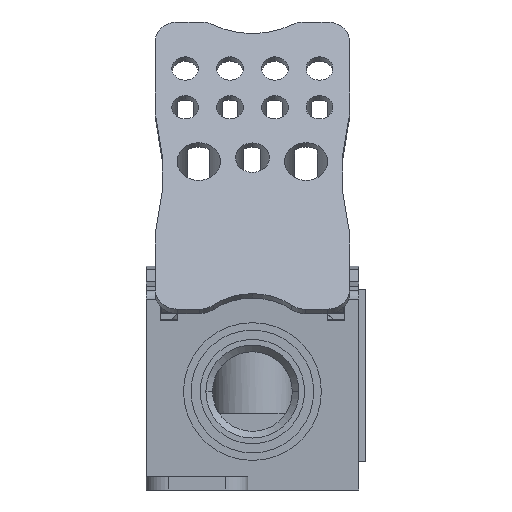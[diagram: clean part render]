
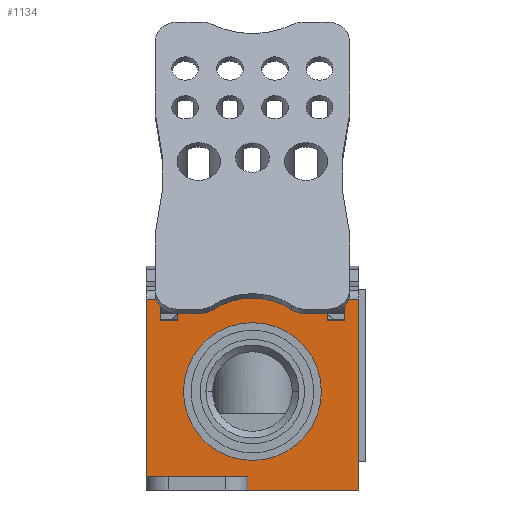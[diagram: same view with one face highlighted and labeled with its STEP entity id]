
A CAD part, left-side view. The second image highlights one B-rep face of the part: STEP entity #1134.
In plain terms, the highlighted planar face has unit normal (-1, 0, 0).
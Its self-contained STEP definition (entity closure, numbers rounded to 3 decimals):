
#381 = EDGE_LOOP ( 'NONE', ( #759, #760 ) ) ;
#430 = EDGE_LOOP ( 'NONE', ( #745, #746, #747, #748, #749, #750, #751, #752, #753, #754, #755, #756, #757, #758 ) ) ;
#745 = ORIENTED_EDGE ( 'NONE', *, *, #1950, .F. ) ;
#746 = ORIENTED_EDGE ( 'NONE', *, *, #1949, .T. ) ;
#747 = ORIENTED_EDGE ( 'NONE', *, *, #1939, .F. ) ;
#748 = ORIENTED_EDGE ( 'NONE', *, *, #1951, .F. ) ;
#749 = ORIENTED_EDGE ( 'NONE', *, *, #1944, .F. ) ;
#750 = ORIENTED_EDGE ( 'NONE', *, *, #1948, .T. ) ;
#751 = ORIENTED_EDGE ( 'NONE', *, *, #1952, .F. ) ;
#752 = ORIENTED_EDGE ( 'NONE', *, *, #1953, .F. ) ;
#753 = ORIENTED_EDGE ( 'NONE', *, *, #1954, .F. ) ;
#754 = ORIENTED_EDGE ( 'NONE', *, *, #1955, .T. ) ;
#755 = ORIENTED_EDGE ( 'NONE', *, *, #1956, .T. ) ;
#756 = ORIENTED_EDGE ( 'NONE', *, *, #1957, .T. ) ;
#757 = ORIENTED_EDGE ( 'NONE', *, *, #1958, .T. ) ;
#758 = ORIENTED_EDGE ( 'NONE', *, *, #1959, .T. ) ;
#759 = ORIENTED_EDGE ( 'NONE', *, *, #1961, .F. ) ;
#760 = ORIENTED_EDGE ( 'NONE', *, *, #3063, .F. ) ;
#1134 = ADVANCED_FACE ( 'NONE', ( #5655, #5660 ), #6133, .F. ) ;
#1939 = EDGE_CURVE ( 'NONE', #16609, #16608, #10052, .T. ) ;
#1944 = EDGE_CURVE ( 'NONE', #16611, #16610, #10062, .T. ) ;
#1948 = EDGE_CURVE ( 'NONE', #16611, #16612, #10070, .T. ) ;
#1949 = EDGE_CURVE ( 'NONE', #16606, #16608, #10069, .T. ) ;
#1950 = EDGE_CURVE ( 'NONE', #16606, #16607, #10071, .T. ) ;
#1951 = EDGE_CURVE ( 'NONE', #16610, #16609, #10064, .T. ) ;
#1952 = EDGE_CURVE ( 'NONE', #16613, #16612, #10075, .T. ) ;
#1953 = EDGE_CURVE ( 'NONE', #16614, #16613, #10077, .T. ) ;
#1954 = EDGE_CURVE ( 'NONE', #16615, #16614, #10079, .T. ) ;
#1955 = EDGE_CURVE ( 'NONE', #16615, #16616, #10081, .T. ) ;
#1956 = EDGE_CURVE ( 'NONE', #16616, #16617, #10083, .T. ) ;
#1957 = EDGE_CURVE ( 'NONE', #16617, #16618, #10085, .T. ) ;
#1958 = EDGE_CURVE ( 'NONE', #16618, #16619, #10087, .T. ) ;
#1959 = EDGE_CURVE ( 'NONE', #16619, #16607, #10089, .T. ) ;
#1961 = EDGE_CURVE ( 'NONE', #17012, #17011, #10096, .T. ) ;
#3063 = EDGE_CURVE ( 'NONE', #17011, #17012, #14596, .T. ) ;
#5139 = AXIS2_PLACEMENT_3D ( 'NONE', #6134, #6139, #6140 ) ;
#5655 = FACE_OUTER_BOUND ( 'NONE', #430, .T. ) ;
#5660 = FACE_BOUND ( 'NONE', #381, .T. ) ;
#6133 = PLANE ( 'NONE',  #5139 ) ;
#6134 = CARTESIAN_POINT ( 'NONE',  ( -37., 23.75, 50. ) ) ;
#6139 = DIRECTION ( 'NONE',  ( 1., 0., 0. ) ) ;
#6140 = DIRECTION ( 'NONE',  ( 0., 1., 0. ) ) ;
#7595 = AXIS2_PLACEMENT_3D ( 'NONE', #11818, #11819, #11820 ) ;
#7601 = AXIS2_PLACEMENT_3D ( 'NONE', #11774, #11792, #11793 ) ;
#7719 = AXIS2_PLACEMENT_3D ( 'NONE', #10980, #10981, #10982 ) ;
#10052 = LINE ( 'NONE', #11772, #10053 ) ;
#10053 = VECTOR ( 'NONE', #11773, 1000. ) ;
#10057 = VECTOR ( 'NONE', #11795, 1000. ) ;
#10062 = LINE ( 'NONE', #11783, #10063 ) ;
#10063 = VECTOR ( 'NONE', #11784, 1000. ) ;
#10064 = LINE ( 'NONE', #11794, #10073 ) ;
#10069 = LINE ( 'NONE', #11785, #10057 ) ;
#10070 = CIRCLE ( 'NONE', #7601, 82.65 ) ;
#10071 = LINE ( 'NONE', #11796, #10072 ) ;
#10072 = VECTOR ( 'NONE', #11797, 1000. ) ;
#10073 = VECTOR ( 'NONE', #11798, 1000. ) ;
#10075 = LINE ( 'NONE', #11799, #10076 ) ;
#10076 = VECTOR ( 'NONE', #11800, 1000. ) ;
#10077 = LINE ( 'NONE', #11801, #10078 ) ;
#10078 = VECTOR ( 'NONE', #11802, 1000. ) ;
#10079 = LINE ( 'NONE', #11803, #10080 ) ;
#10080 = VECTOR ( 'NONE', #11804, 1000. ) ;
#10081 = LINE ( 'NONE', #11805, #10082 ) ;
#10082 = VECTOR ( 'NONE', #11806, 1000. ) ;
#10083 = LINE ( 'NONE', #11807, #10084 ) ;
#10084 = VECTOR ( 'NONE', #11808, 1000. ) ;
#10085 = LINE ( 'NONE', #11809, #10086 ) ;
#10086 = VECTOR ( 'NONE', #11810, 1000. ) ;
#10087 = LINE ( 'NONE', #11811, #10088 ) ;
#10088 = VECTOR ( 'NONE', #11812, 1000. ) ;
#10089 = LINE ( 'NONE', #11813, #10090 ) ;
#10090 = VECTOR ( 'NONE', #11814, 1000. ) ;
#10096 = CIRCLE ( 'NONE', #7595, 15.4 ) ;
#10980 = CARTESIAN_POINT ( 'NONE',  ( -37., 0., 22. ) ) ;
#10981 = DIRECTION ( 'NONE',  ( -1., 0., 0. ) ) ;
#10982 = DIRECTION ( 'NONE',  ( 0., 1., 0. ) ) ;
#11772 = CARTESIAN_POINT ( 'NONE',  ( -37., -20.65, 44.6 ) ) ;
#11773 = DIRECTION ( 'NONE',  ( 0., 0., 1. ) ) ;
#11774 = CARTESIAN_POINT ( 'NONE',  ( -37., 0., -36.65 ) ) ;
#11783 = CARTESIAN_POINT ( 'NONE',  ( -37., -16.85, 37.8 ) ) ;
#11784 = DIRECTION ( 'NONE',  ( 0., 0., -1. ) ) ;
#11785 = CARTESIAN_POINT ( 'NONE',  ( -37., 23.75, 42.6 ) ) ;
#11792 = DIRECTION ( 'NONE',  ( -1., 0., 0. ) ) ;
#11793 = DIRECTION ( 'NONE',  ( 0., 1., 0. ) ) ;
#11794 = CARTESIAN_POINT ( 'NONE',  ( -37., -20.65, 37.8 ) ) ;
#11795 = DIRECTION ( 'NONE',  ( 0., 1., 0. ) ) ;
#11796 = CARTESIAN_POINT ( 'NONE',  ( -37., -23.75, 50. ) ) ;
#11797 = DIRECTION ( 'NONE',  ( 0., 0., -1. ) ) ;
#11798 = DIRECTION ( 'NONE',  ( 0., -1., 0. ) ) ;
#11799 = CARTESIAN_POINT ( 'NONE',  ( -37., 16.85, 37.8 ) ) ;
#11800 = DIRECTION ( 'NONE',  ( 0., 0., 1. ) ) ;
#11801 = CARTESIAN_POINT ( 'NONE',  ( -37., 20.65, 37.8 ) ) ;
#11802 = DIRECTION ( 'NONE',  ( 0., -1., 0. ) ) ;
#11803 = CARTESIAN_POINT ( 'NONE',  ( -37., 20.65, 44.6 ) ) ;
#11804 = DIRECTION ( 'NONE',  ( 0., 0., -1. ) ) ;
#11805 = CARTESIAN_POINT ( 'NONE',  ( -37., 23.75, 42.6 ) ) ;
#11806 = DIRECTION ( 'NONE',  ( 0., 1., 0. ) ) ;
#11807 = CARTESIAN_POINT ( 'NONE',  ( -37., 23.75, 50. ) ) ;
#11808 = DIRECTION ( 'NONE',  ( 0., 0., -1. ) ) ;
#11809 = CARTESIAN_POINT ( 'NONE',  ( -37., 23.75, 3. ) ) ;
#11810 = DIRECTION ( 'NONE',  ( 0., -1., 0. ) ) ;
#11811 = CARTESIAN_POINT ( 'NONE',  ( -37., 1.05, 3. ) ) ;
#11812 = DIRECTION ( 'NONE',  ( 0., 0., -1. ) ) ;
#11813 = CARTESIAN_POINT ( 'NONE',  ( -37., 23.75, 0. ) ) ;
#11814 = DIRECTION ( 'NONE',  ( 0., -1., 0. ) ) ;
#11818 = CARTESIAN_POINT ( 'NONE',  ( -37., 0., 22. ) ) ;
#11819 = DIRECTION ( 'NONE',  ( -1., 0., 0. ) ) ;
#11820 = DIRECTION ( 'NONE',  ( 0., 1., 0. ) ) ;
#14596 = CIRCLE ( 'NONE', #7719, 15.4 ) ;
#15339 = CARTESIAN_POINT ( 'NONE',  ( -37., -23.75, 42.6 ) ) ;
#15340 = CARTESIAN_POINT ( 'NONE',  ( -37., -23.75, 0. ) ) ;
#15341 = CARTESIAN_POINT ( 'NONE',  ( -37., -20.65, 42.6 ) ) ;
#15342 = CARTESIAN_POINT ( 'NONE',  ( -37., -20.65, 37.8 ) ) ;
#15343 = CARTESIAN_POINT ( 'NONE',  ( -37., -16.85, 37.8 ) ) ;
#15344 = CARTESIAN_POINT ( 'NONE',  ( -37., -16.85, 44.264 ) ) ;
#15345 = CARTESIAN_POINT ( 'NONE',  ( -37., 16.85, 44.264 ) ) ;
#15346 = CARTESIAN_POINT ( 'NONE',  ( -37., 16.85, 37.8 ) ) ;
#15347 = CARTESIAN_POINT ( 'NONE',  ( -37., 20.65, 37.8 ) ) ;
#15348 = CARTESIAN_POINT ( 'NONE',  ( -37., 20.65, 42.6 ) ) ;
#15349 = CARTESIAN_POINT ( 'NONE',  ( -37., 23.75, 42.6 ) ) ;
#15350 = CARTESIAN_POINT ( 'NONE',  ( -37., 23.75, 3. ) ) ;
#15351 = CARTESIAN_POINT ( 'NONE',  ( -37., 1.05, 3. ) ) ;
#15352 = CARTESIAN_POINT ( 'NONE',  ( -37., 1.05, 0. ) ) ;
#15787 = CARTESIAN_POINT ( 'NONE',  ( -37., -15.4, 22. ) ) ;
#15788 = CARTESIAN_POINT ( 'NONE',  ( -37., 15.4, 22. ) ) ;
#16606 = VERTEX_POINT ( 'NONE', #15339 ) ;
#16607 = VERTEX_POINT ( 'NONE', #15340 ) ;
#16608 = VERTEX_POINT ( 'NONE', #15341 ) ;
#16609 = VERTEX_POINT ( 'NONE', #15342 ) ;
#16610 = VERTEX_POINT ( 'NONE', #15343 ) ;
#16611 = VERTEX_POINT ( 'NONE', #15344 ) ;
#16612 = VERTEX_POINT ( 'NONE', #15345 ) ;
#16613 = VERTEX_POINT ( 'NONE', #15346 ) ;
#16614 = VERTEX_POINT ( 'NONE', #15347 ) ;
#16615 = VERTEX_POINT ( 'NONE', #15348 ) ;
#16616 = VERTEX_POINT ( 'NONE', #15349 ) ;
#16617 = VERTEX_POINT ( 'NONE', #15350 ) ;
#16618 = VERTEX_POINT ( 'NONE', #15351 ) ;
#16619 = VERTEX_POINT ( 'NONE', #15352 ) ;
#17011 = VERTEX_POINT ( 'NONE', #15787 ) ;
#17012 = VERTEX_POINT ( 'NONE', #15788 ) ;
